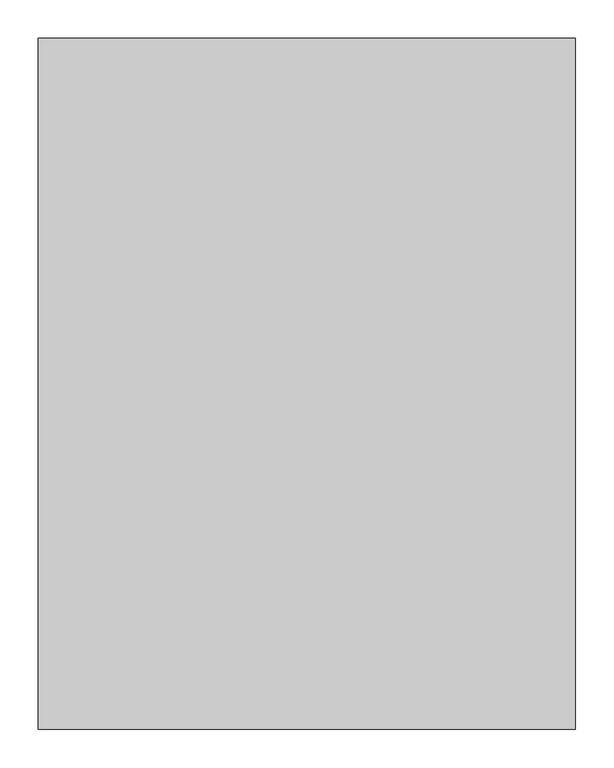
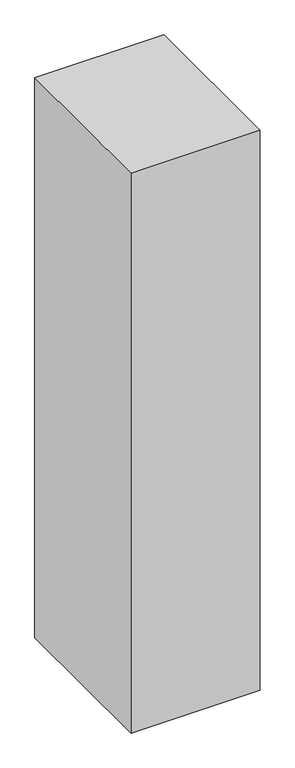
"""IFC4 building model written with IfcOpenShell, lengths in millimetres: column geometry, M_混凝土-矩形-柱 : RC柱70*90."""

from ifc_helpers import new_model, si_unit, frame, origin, place, context, project, spatial, polyline, outline, extrude, source, transform, mapped, element, save


def column_54469858(model_context):
    return source(origin(), model_context, "Body", "SweptSolid", [
        extrude(outline(polyline([(350.0, 450.0), (350.0, -450.0), (-350.0, -450.0), (-350.0, 450.0), (350.0, 450.0)])), frame((0.0, 0.0, 8000.0), z_axis=(0.0, 0.0, 1.0), x_axis=(1.0, 0.0, 0.0)), (0.0, 0.0, 1.0), 3200.0),
    ])


if __name__ == "__main__":
    model = new_model("IFC4")
    model_context = context("Model", 3, world=origin())
    ifc_project = project(units=[si_unit("LENGTHUNIT", "METRE", prefix="MILLI")], contexts=[model_context])
    site = spatial("IfcSite", under=ifc_project)
    building = spatial("IfcBuilding", under=site)
    placement = place(None, origin())
    column_shape = column_54469858(model_context)
    element("IfcColumn", 1, ObjectType="M_混凝土-矩形-柱 : RC柱70*90", at=placement, inside=building, context=model_context, shape_type="MappedRepresentation", body=[
        mapped(column_shape, transform((0.0, 0.0, 0.0), x_axis=(1.0, 0.0, 0.0), y_axis=(0.0, 1.0, 0.0), z_axis=(0.0, 0.0, 1.0))),
    ])
    save(model, "model.ifc")
